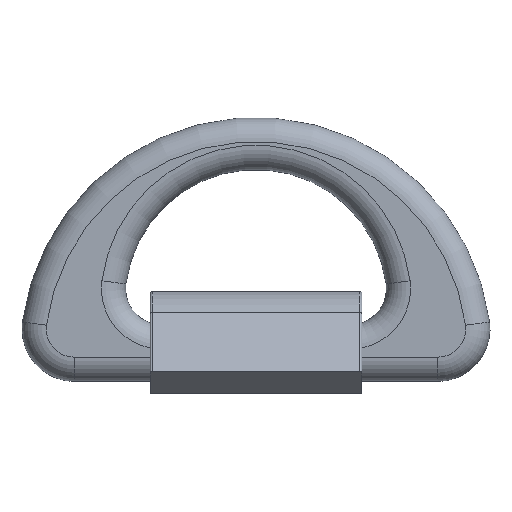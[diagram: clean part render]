
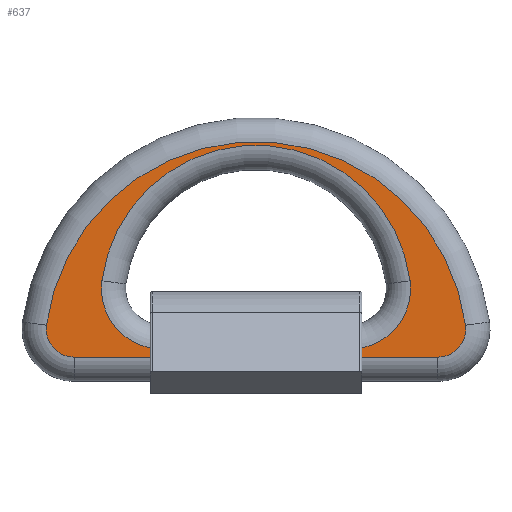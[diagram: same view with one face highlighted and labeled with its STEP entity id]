
A CAD part, top view. The second image highlights one B-rep face of the part: STEP entity #637.
In plain terms, the highlighted planar face has unit normal (0, 0, 1).
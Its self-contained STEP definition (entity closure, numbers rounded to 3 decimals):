
#18=FACE_BOUND('',#107,.T.);
#22=PLANE('',#719);
#63=FACE_OUTER_BOUND('',#106,.T.);
#106=EDGE_LOOP('',(#491,#492,#493,#494));
#107=EDGE_LOOP('',(#495,#496,#497,#498));
#142=LINE('',#1080,#182);
#145=LINE('',#1094,#185);
#182=VECTOR('',#863,10.);
#185=VECTOR('',#882,10.);
#236=CIRCLE('',#709,30.);
#239=CIRCLE('',#714,30.);
#241=CIRCLE('',#717,77.);
#242=CIRCLE('',#720,14.);
#243=CIRCLE('',#721,104.796);
#244=CIRCLE('',#722,14.);
#287=VERTEX_POINT('',#1071);
#288=VERTEX_POINT('',#1073);
#290=VERTEX_POINT('',#1078);
#291=VERTEX_POINT('',#1083);
#292=VERTEX_POINT('',#1092);
#293=VERTEX_POINT('',#1093);
#294=VERTEX_POINT('',#1095);
#295=VERTEX_POINT('',#1097);
#357=EDGE_CURVE('',#288,#287,#236,.T.);
#359=EDGE_CURVE('',#290,#288,#142,.T.);
#362=EDGE_CURVE('',#291,#290,#239,.T.);
#364=EDGE_CURVE('',#287,#291,#241,.T.);
#366=EDGE_CURVE('',#292,#293,#145,.T.);
#367=EDGE_CURVE('',#294,#292,#242,.T.);
#368=EDGE_CURVE('',#295,#294,#243,.T.);
#369=EDGE_CURVE('',#293,#295,#244,.T.);
#491=ORIENTED_EDGE('',*,*,#366,.F.);
#492=ORIENTED_EDGE('',*,*,#367,.F.);
#493=ORIENTED_EDGE('',*,*,#368,.F.);
#494=ORIENTED_EDGE('',*,*,#369,.F.);
#495=ORIENTED_EDGE('',*,*,#357,.F.);
#496=ORIENTED_EDGE('',*,*,#359,.F.);
#497=ORIENTED_EDGE('',*,*,#362,.F.);
#498=ORIENTED_EDGE('',*,*,#364,.F.);
#637=ADVANCED_FACE('',(#63,#18),#22,.T.);
#709=AXIS2_PLACEMENT_3D('',#1075,#857,#858);
#714=AXIS2_PLACEMENT_3D('',#1085,#869,#870);
#717=AXIS2_PLACEMENT_3D('',#1088,#875,#876);
#719=AXIS2_PLACEMENT_3D('',#1091,#880,#881);
#720=AXIS2_PLACEMENT_3D('',#1096,#883,#884);
#721=AXIS2_PLACEMENT_3D('',#1098,#885,#886);
#722=AXIS2_PLACEMENT_3D('',#1099,#887,#888);
#857=DIRECTION('center_axis',(0.,0.,1.));
#858=DIRECTION('ref_axis',(0.751,-0.66,0.));
#863=DIRECTION('',(1.,0.,0.));
#869=DIRECTION('center_axis',(0.,0.,1.));
#870=DIRECTION('ref_axis',(-0.751,-0.66,0.));
#875=DIRECTION('center_axis',(0.,0.,1.));
#876=DIRECTION('ref_axis',(0.,1.,0.));
#880=DIRECTION('center_axis',(0.,0.,1.));
#881=DIRECTION('ref_axis',(1.,0.,0.));
#882=DIRECTION('',(-1.,0.,0.));
#883=DIRECTION('center_axis',(0.,0.,-1.));
#884=DIRECTION('ref_axis',(0.752,-0.659,0.));
#885=DIRECTION('center_axis',(0.,0.,-1.));
#886=DIRECTION('ref_axis',(0.,1.,0.));
#887=DIRECTION('center_axis',(0.,0.,-1.));
#888=DIRECTION('ref_axis',(-0.752,-0.659,0.));
#1071=CARTESIAN_POINT('',(76.37,49.83,28.));
#1073=CARTESIAN_POINT('',(46.615,16.,28.));
#1075=CARTESIAN_POINT('Origin',(46.615,46.,28.));
#1078=CARTESIAN_POINT('',(-46.615,16.,28.));
#1080=CARTESIAN_POINT('',(-23.308,16.,28.));
#1083=CARTESIAN_POINT('',(-76.37,49.83,28.));
#1085=CARTESIAN_POINT('Origin',(-46.615,46.,28.));
#1088=CARTESIAN_POINT('Origin',(0.,40.,28.));
#1091=CARTESIAN_POINT('Origin',(0.,49.222,
28.));
#1092=CARTESIAN_POINT('',(90.,12.,28.));
#1093=CARTESIAN_POINT('',(-90.,12.,28.));
#1094=CARTESIAN_POINT('',(-45.,12.,28.));
#1095=CARTESIAN_POINT('',(103.877,27.85,28.));
#1096=CARTESIAN_POINT('Origin',(90.,26.,28.));
#1097=CARTESIAN_POINT('',(-103.877,27.85,28.));
#1098=CARTESIAN_POINT('Origin',(0.,14.,28.));
#1099=CARTESIAN_POINT('Origin',(-90.,26.,28.));
